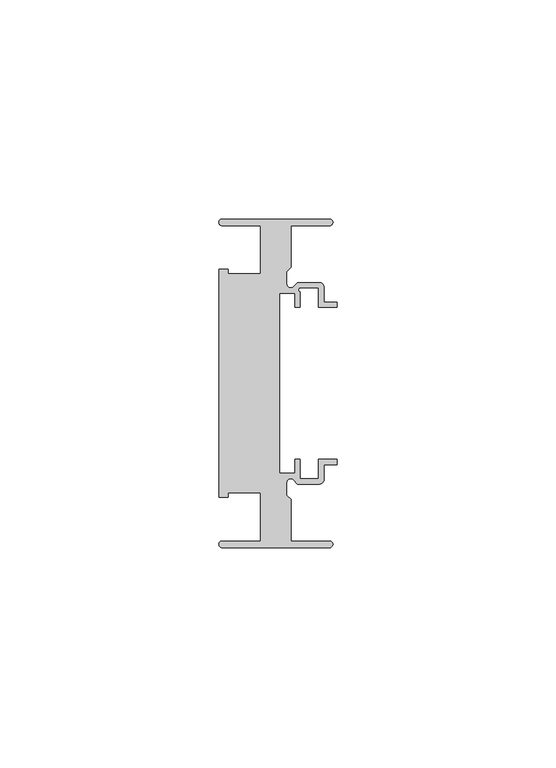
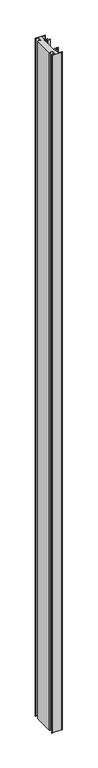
"""IFC4 building model written with IfcOpenShell, lengths in millimetres: member geometry, Прямоугольный импост : 7-AMG-2-Профиль 26Х75 Низ Л."""

from ifc_helpers import new_model, si_unit, point, frame, frame_2d, origin, place, context, project, spatial, polyline, circle_curve, trimmed, segment, composite_curve, outline, extrude, source, transform, mapped, element, save


def member_abd2f60c(model_context):
    return source(origin(), model_context, "Body", "SweptSolid", [
        extrude(outline(composite_curve([segment(polyline([(-1.7, -37.5), (-26.25, -37.5)]), True, "CONTINUOUS"), segment(trimmed(circle_curve(frame_2d((-26.25, -36.75)), 0.75), [point((-26.25, -37.5))], [point((-26.25, -36.0))], False, "CARTESIAN"), True, "CONTINUOUS"), segment(polyline([(-26.25, -36.0), (-17.5, -36.0), (-17.5, -25.0), (-24.9359877, -25.0), (-24.9359877, -26.0), (-27.0, -26.0), (-27.0, 26.0), (-24.9359877, 26.0), (-24.9359877, 25.0), (-17.5, 25.0), (-17.5, 36.0), (-26.25, 36.0)]), True, "CONTINUOUS"), segment(trimmed(circle_curve(frame_2d((-26.25, 36.75)), 0.75), [point((-26.25, 36.0))], [point((-26.25, 37.5))], False, "CARTESIAN"), True, "CONTINUOUS"), segment(polyline([(-26.25, 37.5), (-1.7, 37.5)]), True, "CONTINUOUS"), segment(trimmed(circle_curve(frame_2d((-1.7, 36.75)), 0.75), [point((-1.7, 37.5))], [point((-1.7, 36.0))], False, "CARTESIAN"), True, "CONTINUOUS"), segment(polyline([(-1.7, 36.0), (-10.5, 36.0), (-10.5, 26.5029437), (-11.5, 25.5029437), (-11.5, 22.6727922)]), True, "CONTINUOUS"), segment(trimmed(circle_curve(frame_2d((-10.6, 22.6727922)), 0.9), [point((-11.5, 22.6727922))], [point((-9.9636039, 22.0363961))], True, "CARTESIAN"), True, "CONTINUOUS"), segment(polyline([(-9.9636039, 22.0363961), (-9.0, 23.0), (-4.0, 23.0)]), True, "CONTINUOUS"), segment(trimmed(circle_curve(frame_2d((-4.0, 22.0)), 1.0), [point((-4.0, 23.0))], [point((-3.0, 22.0))], False, "CARTESIAN"), True, "CONTINUOUS"), segment(polyline([(-3.0, 22.0), (-3.0, 18.55), (0.0, 18.55), (0.0, 17.35), (-4.2, 17.35), (-4.2, 21.8), (-8.5029437, 21.8)]), True, "CONTINUOUS"), segment(trimmed(circle_curve(frame_2d((-8.3343131, 21.3314262)), 0.4979937), [point((-8.5029437, 21.8))], [point((-8.45, 20.8470563))], True, "CARTESIAN"), True, "CONTINUOUS"), segment(polyline([(-8.45, 20.8470563), (-8.45, 17.35), (-9.65, 17.35), (-9.65, 20.55), (-13.15, 20.55), (-13.15, -20.55), (-9.65, -20.55), (-9.65, -17.35), (-8.45, -17.35), (-8.45, -21.8), (-4.2, -21.8), (-4.2, -17.35), (0.0, -17.35), (0.0, -18.55), (-3.0, -18.55), (-3.0, -22.0)]), True, "CONTINUOUS"), segment(trimmed(circle_curve(frame_2d((-4.0, -22.0)), 1.0), [point((-3.0, -22.0))], [point((-4.0, -23.0))], False, "CARTESIAN"), True, "CONTINUOUS"), segment(polyline([(-4.0, -23.0), (-9.0, -23.0), (-9.9636039, -22.0363961)]), True, "CONTINUOUS"), segment(trimmed(circle_curve(frame_2d((-10.6, -22.6727922)), 0.9), [point((-9.9636039, -22.0363961))], [point((-11.5, -22.6727922))], True, "CARTESIAN"), True, "CONTINUOUS"), segment(polyline([(-11.5, -22.6727922), (-11.5, -25.5029437), (-10.5, -26.5029437), (-10.5, -36.0), (-1.7, -36.0)]), True, "CONTINUOUS"), segment(trimmed(circle_curve(frame_2d((-1.7, -36.75)), 0.75), [point((-1.7, -36.0))], [point((-1.7, -37.5))], False, "CARTESIAN"), True, "CONTINUOUS")], self_intersect=False)), frame((0.0, 0.0, -1818.8251447), z_axis=(0.0, 0.0, 1.0), x_axis=(1.0, 0.0, 0.0)), (0.0, 0.0, 1.0), 1818.8251447),
    ])


if __name__ == "__main__":
    model = new_model("IFC4")
    model_context = context("Model", 3, world=origin())
    ifc_project = project(units=[si_unit("LENGTHUNIT", "METRE", prefix="MILLI")], contexts=[model_context])
    site = spatial("IfcSite", under=ifc_project)
    building = spatial("IfcBuilding", under=site)
    placement = place(None, origin())
    member_shape = member_abd2f60c(model_context)
    element("IfcMember", 1, ObjectType="Прямоугольный импост : 7-AMG-2-Профиль 26Х75 Низ Л", at=placement, inside=building, context=model_context, shape_type="MappedRepresentation", body=[
        mapped(member_shape, transform((0.0, 0.0, 0.0), x_axis=(1.0, 0.0, 0.0), y_axis=(0.0, 1.0, 0.0), z_axis=(0.0, 0.0, 1.0))),
    ])
    save(model, "model.ifc")
